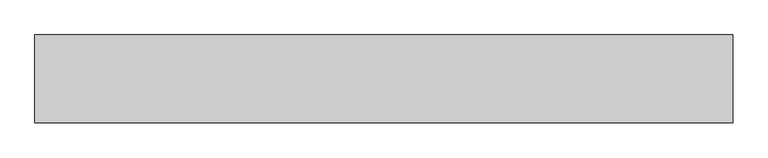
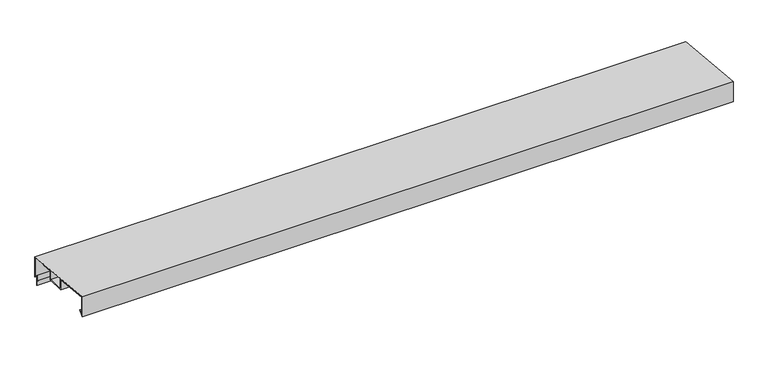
"""IFC4 building model written with IfcOpenShell, lengths in millimetres: proxy geometry, АК5_1 Парапет : АК5_1 Парапет."""

from ifc_helpers import new_model, si_unit, origin, place, context, project, spatial, faceted_brep, source, transform, mapped, element, save


def generic_models_6f136ce7(model_context):
    return source(origin(), model_context, "Body", "Brep", [
        faceted_brep([(0.0, -150.0, 62.265966), (0.0, -150.0, -20.4), (2597.5824969, -150.0, -20.4), (2597.5824969, -150.0, 62.265966), (0.0, 177.1, 33.6484242), (0.0, 0.0, 49.1426665), (2597.5824969, 0.0, 49.1426665), (2597.5824969, 177.1, 33.6484242), (0.0, 177.1, -51.4916897), (2597.5824969, 177.1, -51.4916897), (0.0, 162.9578644, -37.3495541), (2597.5824969, 162.9578644, -37.3495541), (0.0, 162.9578644, -77.3495541), (2597.5824969, 162.9578644, -77.3495541), (0.0, 160.0, -77.3495541), (2597.5824969, 160.0, -77.3495541), (0.0, 160.0, -57.3495541), (2597.5824969, 160.0, -57.3495541), (0.0, 161.0, -57.3495541), (2597.5824969, 161.0, -57.3495541), (0.0, 161.0, -76.3495541), (2597.5824969, 161.0, -76.3495541), (0.0, 161.9578644, -76.3495541), (2597.5824969, 161.9578644, -76.3495541), (0.0, 161.9578644, -34.9353406), (2597.5824969, 161.9578644, -34.9353406), (0.0, 176.1, -49.0774762), (2597.5824969, 176.1, -49.0774762), (0.0, 176.1, 32.732093), (2597.5824969, 176.1, 32.732093), (0.0, 0.0, 48.1388467), (2597.5824969, 0.0, 48.1388467), (2597.5824969, -149.0, 61.1746575), (0.0, -149.0, 61.1746575), (0.0, -149.0, -17.9857864), (2597.5824969, -149.0, -17.9857864), (0.0, -133.0294373, -2.0152237), (2597.5824969, -133.0294373, -2.0152237), (0.0, -132.3223305, -2.7223305), (2597.5824969, -132.3223305, -2.7223305)], [[[0, 1, 2, 3]], [[4, 5, 0, 3, 6, 7]], [[8, 4, 7, 9]], [[10, 8, 9, 11]], [[12, 10, 11, 13]], [[14, 12, 13, 15]], [[16, 14, 15, 17]], [[18, 16, 17, 19]], [[20, 18, 19, 21]], [[22, 20, 21, 23]], [[24, 22, 23, 25]], [[26, 24, 25, 27]], [[28, 26, 27, 29]], [[30, 28, 29, 31, 32, 33]], [[34, 33, 32, 35]], [[36, 34, 35, 37]], [[38, 36, 37, 39]], [[1, 38, 39, 2]], [[30, 5, 4, 8, 10, 12, 14, 16, 18, 20, 22, 24, 26, 28]], [[5, 30, 33, 34, 36, 38, 1, 0]], [[6, 31, 29, 27, 25, 23, 21, 19, 17, 15, 13, 11, 9, 7]], [[31, 6, 3, 2, 39, 37, 35, 32]]]),
        faceted_brep([(0.0, -148.0, -12.5), (0.0, -146.0, -12.5), (2597.5824969, -146.0, -12.5), (2597.5824969, -148.0, -12.5), (0.0, -148.0, 60.083349), (2597.5824969, -148.0, 60.083349), (0.0, 1.5433638, 47.0), (0.0, 0.0, 47.1350268), (2597.5824969, 0.0, 47.1350268), (2597.5824969, 1.5433638, 47.0), (0.0, 1.5433638, 4.0), (2597.5824969, 1.5433638, 4.0), (0.0, 67.5433638, 4.0), (2597.5824969, 67.5433638, 4.0), (0.0, 67.5433638, 41.2257482), (2597.5824969, 67.5433638, 41.2257482), (0.0, 114.5464367, 37.1135122), (2597.5824969, 114.5464367, 37.1135122), (0.0, 114.3721252, 35.1211228), (2597.5824969, 114.3721252, 35.1211228), (0.0, 69.5433638, 39.0431312), (2597.5824969, 69.5433638, 39.0431312), (0.0, 69.5433638, 2.0), (2597.5824969, 69.5433638, 2.0), (0.0, 0.0, 2.0), (2597.5824969, 0.0, 2.0), (2597.5824969, -0.4566362, 2.0), (0.0, -0.4566362, 2.0), (0.0, -0.4566362, 45.1673377), (2597.5824969, -0.4566362, 45.1673377), (0.0, -146.0, 57.900732), (2597.5824969, -146.0, 57.900732)], [[[0, 1, 2, 3]], [[4, 0, 3, 5]], [[6, 7, 4, 5, 8, 9]], [[10, 6, 9, 11]], [[12, 10, 11, 13]], [[14, 12, 13, 15]], [[16, 14, 15, 17]], [[18, 16, 17, 19]], [[20, 18, 19, 21]], [[22, 20, 21, 23]], [[24, 22, 23, 25, 26, 27]], [[28, 27, 26, 29]], [[30, 28, 29, 31]], [[1, 30, 31, 2]], [[24, 7, 6, 10, 12, 14, 16, 18, 20, 22]], [[7, 24, 27, 28, 30, 1, 0, 4]], [[8, 25, 23, 21, 19, 17, 15, 13, 11, 9]], [[25, 8, 5, 3, 2, 31, 29, 26]]]),
    ])


if __name__ == "__main__":
    model = new_model("IFC4")
    model_context = context("Model", 3, world=origin())
    ifc_project = project(units=[si_unit("LENGTHUNIT", "METRE", prefix="MILLI")], contexts=[model_context])
    site = spatial("IfcSite", under=ifc_project)
    building = spatial("IfcBuilding", under=site)
    placement = place(None, origin())
    generic_models_shape = generic_models_6f136ce7(model_context)
    element("IfcBuildingElementProxy", 1, Name="АК5_1 Парапет : АК5_1 Парапет", ObjectType="АК5_1 Парапет : АК5_1 Парапет", at=placement, inside=building, context=model_context, shape_type="MappedRepresentation", body=[
        mapped(generic_models_shape, transform((0.0, 0.0, 0.0), x_axis=(1.0, 0.0, 0.0), y_axis=(0.0, 1.0, 0.0), z_axis=(0.0, 0.0, 1.0))),
    ])
    save(model, "model.ifc")
